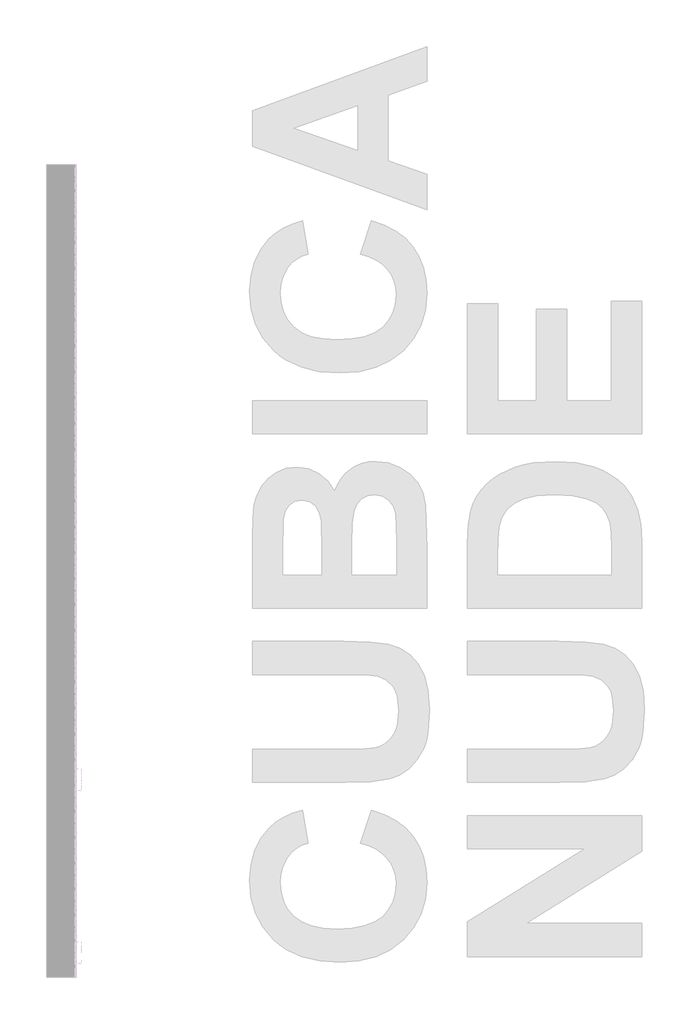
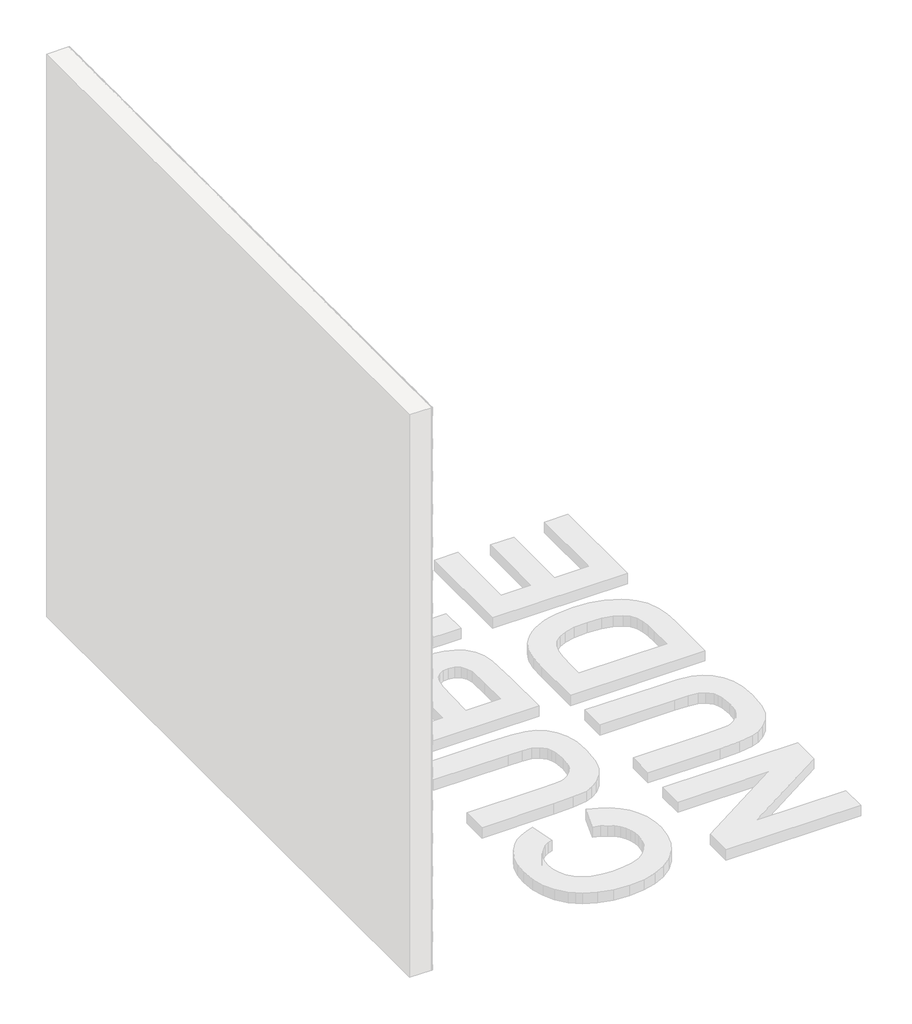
# One storey, part 58 of 121: 144 proxies.
"""IFC4 building model written with IfcOpenShell, lengths in millimetres."""

from ifc_helpers import new_model, si_unit, origin, place, context, project, spatial, transform, mapped, element, save
from components import generic_models_b2b2c5c1, generic_models_9bf73f6f, generic_models_5d175859

model = new_model("IFC4")

# Units and contexts
model_context = context("Model", 3, world=origin())
ifc_project = project(units=[si_unit("LENGTHUNIT", "METRE", prefix="MILLI")], contexts=[model_context])

# Site, building, storey
site = spatial("IfcSite", under=ifc_project)
building = spatial("IfcBuilding", under=site)
storey = spatial("IfcBuildingStorey", under=building, Name="PORTOBELLO - SHOWROOM", Elevation=0.0)

# Proxies
placement = place(None, origin())
generic_models_shape = generic_models_b2b2c5c1(model_context)
element("IfcBuildingElementProxy", 1, Name="PBSHOP - CUBICA NUDE 4,8X8,3 : CUBICA NUDE - POSIÇÃO 01", ObjectType="PBSHOP - CUBICA NUDE 4,8X8,3 : CUBICA NUDE - POSIÇÃO 01", at=placement, inside=storey, context=model_context, shape_type="MappedRepresentation", body=[
    mapped(generic_models_shape, transform((150369.5341846, 7350.3600726, 1381.3110192), x_axis=(0.0, 1.0, 0.0), y_axis=(0.0, 0.0, 1.0), z_axis=(1.0, 0.0, 0.0))),
])
element("IfcBuildingElementProxy", 2, Name="PBSHOP - CUBICA NUDE 4,8X8,3 : CUBICA NUDE - POSIÇÃO 01", ObjectType="PBSHOP - CUBICA NUDE 4,8X8,3 : CUBICA NUDE - POSIÇÃO 01", at=placement, inside=storey, context=model_context, shape_type="MappedRepresentation", body=[
    mapped(generic_models_shape, transform((150369.5341846, 7441.1993419, 1381.3110192), x_axis=(0.0, 1.0, 0.0), y_axis=(0.0, 0.0, 1.0), z_axis=(1.0, 0.0, 0.0))),
])
element("IfcBuildingElementProxy", 3, Name="PBSHOP - CUBICA NUDE 4,8X8,3 : CUBICA NUDE - POSIÇÃO 01", ObjectType="PBSHOP - CUBICA NUDE 4,8X8,3 : CUBICA NUDE - POSIÇÃO 01", at=placement, inside=storey, context=model_context, shape_type="MappedRepresentation", body=[
    mapped(generic_models_shape, transform((150369.5341846, 7532.0386111, 1381.3110192), x_axis=(0.0, 1.0, 0.0), y_axis=(0.0, 0.0, 1.0), z_axis=(1.0, 0.0, 0.0))),
])
element("IfcBuildingElementProxy", 4, Name="PBSHOP - CUBICA NUDE 4,8X8,3 : CUBICA NUDE - POSIÇÃO 01", ObjectType="PBSHOP - CUBICA NUDE 4,8X8,3 : CUBICA NUDE - POSIÇÃO 01", at=placement, inside=storey, context=model_context, shape_type="MappedRepresentation", body=[
    mapped(generic_models_shape, transform((150369.5341846, 7622.8778804, 1381.3110192), x_axis=(0.0, 1.0, 0.0), y_axis=(0.0, 0.0, 1.0), z_axis=(1.0, 0.0, 0.0))),
])
element("IfcBuildingElementProxy", 5, Name="PBSHOP - CUBICA NUDE 4,8X8,3 : CUBICA NUDE - POSIÇÃO 01", ObjectType="PBSHOP - CUBICA NUDE 4,8X8,3 : CUBICA NUDE - POSIÇÃO 01", at=placement, inside=storey, context=model_context, shape_type="MappedRepresentation", body=[
    mapped(generic_models_shape, transform((150369.5341846, 7713.7171496, 1381.3110192), x_axis=(0.0, 1.0, 0.0), y_axis=(0.0, 0.0, 1.0), z_axis=(1.0, 0.0, 0.0))),
])
element("IfcBuildingElementProxy", 6, Name="PBSHOP - CUBICA NUDE 4,8X8,3 : CUBICA NUDE - POSIÇÃO 01", ObjectType="PBSHOP - CUBICA NUDE 4,8X8,3 : CUBICA NUDE - POSIÇÃO 01", at=placement, inside=storey, context=model_context, shape_type="MappedRepresentation", body=[
    mapped(generic_models_shape, transform((150369.5341846, 7804.5564189, 1381.3110192), x_axis=(0.0, 1.0, 0.0), y_axis=(0.0, 0.0, 1.0), z_axis=(1.0, 0.0, 0.0))),
])
element("IfcBuildingElementProxy", 7, Name="PBSHOP - CUBICA NUDE 4,8X8,3 : CUBICA NUDE - POSIÇÃO 01", ObjectType="PBSHOP - CUBICA NUDE 4,8X8,3 : CUBICA NUDE - POSIÇÃO 01", at=placement, inside=storey, context=model_context, shape_type="MappedRepresentation", body=[
    mapped(generic_models_shape, transform((150369.5341846, 7895.3956881, 1381.3110192), x_axis=(0.0, 1.0, 0.0), y_axis=(0.0, 0.0, 1.0), z_axis=(1.0, 0.0, 0.0))),
])
element("IfcBuildingElementProxy", 8, Name="PBSHOP - CUBICA NUDE 4,8X8,3 : CUBICA NUDE - POSIÇÃO 01", ObjectType="PBSHOP - CUBICA NUDE 4,8X8,3 : CUBICA NUDE - POSIÇÃO 01", at=placement, inside=storey, context=model_context, shape_type="MappedRepresentation", body=[
    mapped(generic_models_shape, transform((150369.5341846, 7986.2349573, 1381.3110192), x_axis=(0.0, 1.0, 0.0), y_axis=(0.0, 0.0, 1.0), z_axis=(1.0, 0.0, 0.0))),
])
element("IfcBuildingElementProxy", 9, Name="PBSHOP - CUBICA NUDE 4,8X8,3 : CUBICA NUDE - POSIÇÃO 01", ObjectType="PBSHOP - CUBICA NUDE 4,8X8,3 : CUBICA NUDE - POSIÇÃO 01", at=placement, inside=storey, context=model_context, shape_type="MappedRepresentation", body=[
    mapped(generic_models_shape, transform((150369.5341846, 7032.4226303, 1460.2456575), x_axis=(0.0, 1.0, 0.0), y_axis=(0.0, 0.0, 1.0), z_axis=(1.0, 0.0, 0.0))),
])
element("IfcBuildingElementProxy", 10, Name="PBSHOP - CUBICA NUDE 4,8X8,3 : CUBICA NUDE - POSIÇÃO 01", ObjectType="PBSHOP - CUBICA NUDE 4,8X8,3 : CUBICA NUDE - POSIÇÃO 01", at=placement, inside=storey, context=model_context, shape_type="MappedRepresentation", body=[
    mapped(generic_models_shape, transform((150369.5341846, 7123.2618995, 1460.2456575), x_axis=(0.0, 1.0, 0.0), y_axis=(0.0, 0.0, 1.0), z_axis=(1.0, 0.0, 0.0))),
])
element("IfcBuildingElementProxy", 11, Name="PBSHOP - CUBICA NUDE 4,8X8,3 : CUBICA NUDE - POSIÇÃO 01", ObjectType="PBSHOP - CUBICA NUDE 4,8X8,3 : CUBICA NUDE - POSIÇÃO 01", at=placement, inside=storey, context=model_context, shape_type="MappedRepresentation", body=[
    mapped(generic_models_shape, transform((150369.5341846, 7214.1011688, 1460.2456575), x_axis=(0.0, 1.0, 0.0), y_axis=(0.0, 0.0, 1.0), z_axis=(1.0, 0.0, 0.0))),
])
element("IfcBuildingElementProxy", 12, Name="PBSHOP - CUBICA NUDE 4,8X8,3 : CUBICA NUDE - POSIÇÃO 01", ObjectType="PBSHOP - CUBICA NUDE 4,8X8,3 : CUBICA NUDE - POSIÇÃO 01", at=placement, inside=storey, context=model_context, shape_type="MappedRepresentation", body=[
    mapped(generic_models_shape, transform((150369.5341846, 7304.940438, 1460.2456575), x_axis=(0.0, 1.0, 0.0), y_axis=(0.0, 0.0, 1.0), z_axis=(1.0, 0.0, 0.0))),
])
element("IfcBuildingElementProxy", 13, Name="PBSHOP - CUBICA NUDE 4,8X8,3 : CUBICA NUDE - POSIÇÃO 01", ObjectType="PBSHOP - CUBICA NUDE 4,8X8,3 : CUBICA NUDE - POSIÇÃO 01", at=placement, inside=storey, context=model_context, shape_type="MappedRepresentation", body=[
    mapped(generic_models_shape, transform((150369.5341846, 7395.7797073, 1460.2456575), x_axis=(0.0, 1.0, 0.0), y_axis=(0.0, 0.0, 1.0), z_axis=(1.0, 0.0, 0.0))),
])
element("IfcBuildingElementProxy", 14, Name="PBSHOP - CUBICA NUDE 4,8X8,3 : CUBICA NUDE - POSIÇÃO 01", ObjectType="PBSHOP - CUBICA NUDE 4,8X8,3 : CUBICA NUDE - POSIÇÃO 01", at=placement, inside=storey, context=model_context, shape_type="MappedRepresentation", body=[
    mapped(generic_models_shape, transform((150369.5341846, 7486.6189765, 1460.2456575), x_axis=(0.0, 1.0, 0.0), y_axis=(0.0, 0.0, 1.0), z_axis=(1.0, 0.0, 0.0))),
])
element("IfcBuildingElementProxy", 15, Name="PBSHOP - CUBICA NUDE 4,8X8,3 : CUBICA NUDE - POSIÇÃO 01", ObjectType="PBSHOP - CUBICA NUDE 4,8X8,3 : CUBICA NUDE - POSIÇÃO 01", at=placement, inside=storey, context=model_context, shape_type="MappedRepresentation", body=[
    mapped(generic_models_shape, transform((150369.5341846, 7577.4582457, 1460.2456575), x_axis=(0.0, 1.0, 0.0), y_axis=(0.0, 0.0, 1.0), z_axis=(1.0, 0.0, 0.0))),
])
element("IfcBuildingElementProxy", 16, Name="PBSHOP - CUBICA NUDE 4,8X8,3 : CUBICA NUDE - POSIÇÃO 01", ObjectType="PBSHOP - CUBICA NUDE 4,8X8,3 : CUBICA NUDE - POSIÇÃO 01", at=placement, inside=storey, context=model_context, shape_type="MappedRepresentation", body=[
    mapped(generic_models_shape, transform((150369.5341846, 7668.297515, 1460.2456575), x_axis=(0.0, 1.0, 0.0), y_axis=(0.0, 0.0, 1.0), z_axis=(1.0, 0.0, 0.0))),
])
element("IfcBuildingElementProxy", 17, Name="PBSHOP - CUBICA NUDE 4,8X8,3 : CUBICA NUDE - POSIÇÃO 01", ObjectType="PBSHOP - CUBICA NUDE 4,8X8,3 : CUBICA NUDE - POSIÇÃO 01", at=placement, inside=storey, context=model_context, shape_type="MappedRepresentation", body=[
    mapped(generic_models_shape, transform((150369.5341846, 7759.1367842, 1460.2456575), x_axis=(0.0, 1.0, 0.0), y_axis=(0.0, 0.0, 1.0), z_axis=(1.0, 0.0, 0.0))),
])
element("IfcBuildingElementProxy", 18, Name="PBSHOP - CUBICA NUDE 4,8X8,3 : CUBICA NUDE - POSIÇÃO 01", ObjectType="PBSHOP - CUBICA NUDE 4,8X8,3 : CUBICA NUDE - POSIÇÃO 01", at=placement, inside=storey, context=model_context, shape_type="MappedRepresentation", body=[
    mapped(generic_models_shape, transform((150369.5341846, 7849.9760535, 1460.2456575), x_axis=(0.0, 1.0, 0.0), y_axis=(0.0, 0.0, 1.0), z_axis=(1.0, 0.0, 0.0))),
])
element("IfcBuildingElementProxy", 19, Name="PBSHOP - CUBICA NUDE 4,8X8,3 : CUBICA NUDE - POSIÇÃO 01", ObjectType="PBSHOP - CUBICA NUDE 4,8X8,3 : CUBICA NUDE - POSIÇÃO 01", at=placement, inside=storey, context=model_context, shape_type="MappedRepresentation", body=[
    mapped(generic_models_shape, transform((150369.5341846, 7940.8153227, 1460.2456575), x_axis=(0.0, 1.0, 0.0), y_axis=(0.0, 0.0, 1.0), z_axis=(1.0, 0.0, 0.0))),
])
element("IfcBuildingElementProxy", 20, Name="PBSHOP - CUBICA NUDE 4,8X8,3 : CUBICA NUDE - POSIÇÃO 01", ObjectType="PBSHOP - CUBICA NUDE 4,8X8,3 : CUBICA NUDE - POSIÇÃO 01", at=placement, inside=storey, context=model_context, shape_type="MappedRepresentation", body=[
    mapped(generic_models_shape, transform((150369.5341846, 7077.8422649, 1539.1802959), x_axis=(0.0, 1.0, 0.0), y_axis=(0.0, 0.0, 1.0), z_axis=(1.0, 0.0, 0.0))),
])
element("IfcBuildingElementProxy", 21, Name="PBSHOP - CUBICA NUDE 4,8X8,3 : CUBICA NUDE - POSIÇÃO 01", ObjectType="PBSHOP - CUBICA NUDE 4,8X8,3 : CUBICA NUDE - POSIÇÃO 01", at=placement, inside=storey, context=model_context, shape_type="MappedRepresentation", body=[
    mapped(generic_models_shape, transform((150369.5341846, 7168.6815341, 1539.1802959), x_axis=(0.0, 1.0, 0.0), y_axis=(0.0, 0.0, 1.0), z_axis=(1.0, 0.0, 0.0))),
])
element("IfcBuildingElementProxy", 22, Name="PBSHOP - CUBICA NUDE 4,8X8,3 : CUBICA NUDE - POSIÇÃO 01", ObjectType="PBSHOP - CUBICA NUDE 4,8X8,3 : CUBICA NUDE - POSIÇÃO 01", at=placement, inside=storey, context=model_context, shape_type="MappedRepresentation", body=[
    mapped(generic_models_shape, transform((150369.5341846, 7259.5208034, 1539.1802959), x_axis=(0.0, 1.0, 0.0), y_axis=(0.0, 0.0, 1.0), z_axis=(1.0, 0.0, 0.0))),
])
element("IfcBuildingElementProxy", 23, Name="PBSHOP - CUBICA NUDE 4,8X8,3 : CUBICA NUDE - POSIÇÃO 01", ObjectType="PBSHOP - CUBICA NUDE 4,8X8,3 : CUBICA NUDE - POSIÇÃO 01", at=placement, inside=storey, context=model_context, shape_type="MappedRepresentation", body=[
    mapped(generic_models_shape, transform((150369.5341846, 7350.3600726, 1539.1802959), x_axis=(0.0, 1.0, 0.0), y_axis=(0.0, 0.0, 1.0), z_axis=(1.0, 0.0, 0.0))),
])
element("IfcBuildingElementProxy", 24, Name="PBSHOP - CUBICA NUDE 4,8X8,3 : CUBICA NUDE - POSIÇÃO 01", ObjectType="PBSHOP - CUBICA NUDE 4,8X8,3 : CUBICA NUDE - POSIÇÃO 01", at=placement, inside=storey, context=model_context, shape_type="MappedRepresentation", body=[
    mapped(generic_models_shape, transform((150369.5341846, 7441.1993419, 1539.1802959), x_axis=(0.0, 1.0, 0.0), y_axis=(0.0, 0.0, 1.0), z_axis=(1.0, 0.0, 0.0))),
])
element("IfcBuildingElementProxy", 25, Name="PBSHOP - CUBICA NUDE 4,8X8,3 : CUBICA NUDE - POSIÇÃO 01", ObjectType="PBSHOP - CUBICA NUDE 4,8X8,3 : CUBICA NUDE - POSIÇÃO 01", at=placement, inside=storey, context=model_context, shape_type="MappedRepresentation", body=[
    mapped(generic_models_shape, transform((150369.5341846, 7532.0386111, 1539.1802959), x_axis=(0.0, 1.0, 0.0), y_axis=(0.0, 0.0, 1.0), z_axis=(1.0, 0.0, 0.0))),
])
element("IfcBuildingElementProxy", 26, Name="PBSHOP - CUBICA NUDE 4,8X8,3 : CUBICA NUDE - POSIÇÃO 01", ObjectType="PBSHOP - CUBICA NUDE 4,8X8,3 : CUBICA NUDE - POSIÇÃO 01", at=placement, inside=storey, context=model_context, shape_type="MappedRepresentation", body=[
    mapped(generic_models_shape, transform((150369.5341846, 7622.8778804, 1539.1802959), x_axis=(0.0, 1.0, 0.0), y_axis=(0.0, 0.0, 1.0), z_axis=(1.0, 0.0, 0.0))),
])
element("IfcBuildingElementProxy", 27, Name="PBSHOP - CUBICA NUDE 4,8X8,3 : CUBICA NUDE - POSIÇÃO 01", ObjectType="PBSHOP - CUBICA NUDE 4,8X8,3 : CUBICA NUDE - POSIÇÃO 01", at=placement, inside=storey, context=model_context, shape_type="MappedRepresentation", body=[
    mapped(generic_models_shape, transform((150369.5341846, 7713.7171496, 1539.1802959), x_axis=(0.0, 1.0, 0.0), y_axis=(0.0, 0.0, 1.0), z_axis=(1.0, 0.0, 0.0))),
])
element("IfcBuildingElementProxy", 28, Name="PBSHOP - CUBICA NUDE 4,8X8,3 : CUBICA NUDE - POSIÇÃO 01", ObjectType="PBSHOP - CUBICA NUDE 4,8X8,3 : CUBICA NUDE - POSIÇÃO 01", at=placement, inside=storey, context=model_context, shape_type="MappedRepresentation", body=[
    mapped(generic_models_shape, transform((150369.5341846, 7804.5564189, 1539.1802959), x_axis=(0.0, 1.0, 0.0), y_axis=(0.0, 0.0, 1.0), z_axis=(1.0, 0.0, 0.0))),
])
element("IfcBuildingElementProxy", 29, Name="PBSHOP - CUBICA NUDE 4,8X8,3 : CUBICA NUDE - POSIÇÃO 01", ObjectType="PBSHOP - CUBICA NUDE 4,8X8,3 : CUBICA NUDE - POSIÇÃO 01", at=placement, inside=storey, context=model_context, shape_type="MappedRepresentation", body=[
    mapped(generic_models_shape, transform((150369.5341846, 7895.3956881, 1539.1802959), x_axis=(0.0, 1.0, 0.0), y_axis=(0.0, 0.0, 1.0), z_axis=(1.0, 0.0, 0.0))),
])
element("IfcBuildingElementProxy", 30, Name="PBSHOP - CUBICA NUDE 4,8X8,3 : CUBICA NUDE - POSIÇÃO 01", ObjectType="PBSHOP - CUBICA NUDE 4,8X8,3 : CUBICA NUDE - POSIÇÃO 01", at=placement, inside=storey, context=model_context, shape_type="MappedRepresentation", body=[
    mapped(generic_models_shape, transform((150369.5341846, 7986.2349573, 1539.1802959), x_axis=(0.0, 1.0, 0.0), y_axis=(0.0, 0.0, 1.0), z_axis=(1.0, 0.0, 0.0))),
])
element("IfcBuildingElementProxy", 31, Name="PBSHOP - CUBICA NUDE 4,8X8,3 : CUBICA NUDE - POSIÇÃO 01", ObjectType="PBSHOP - CUBICA NUDE 4,8X8,3 : CUBICA NUDE - POSIÇÃO 01", at=placement, inside=storey, context=model_context, shape_type="MappedRepresentation", body=[
    mapped(generic_models_shape, transform((150369.5341846, 7032.4226303, 1618.1149343), x_axis=(0.0, 1.0, 0.0), y_axis=(0.0, 0.0, 1.0), z_axis=(1.0, 0.0, 0.0))),
])
element("IfcBuildingElementProxy", 32, Name="PBSHOP - CUBICA NUDE 4,8X8,3 : CUBICA NUDE - POSIÇÃO 01", ObjectType="PBSHOP - CUBICA NUDE 4,8X8,3 : CUBICA NUDE - POSIÇÃO 01", at=placement, inside=storey, context=model_context, shape_type="MappedRepresentation", body=[
    mapped(generic_models_shape, transform((150369.5341846, 7123.2618995, 1618.1149343), x_axis=(0.0, 1.0, 0.0), y_axis=(0.0, 0.0, 1.0), z_axis=(1.0, 0.0, 0.0))),
])
element("IfcBuildingElementProxy", 33, Name="PBSHOP - CUBICA NUDE 4,8X8,3 : CUBICA NUDE - POSIÇÃO 01", ObjectType="PBSHOP - CUBICA NUDE 4,8X8,3 : CUBICA NUDE - POSIÇÃO 01", at=placement, inside=storey, context=model_context, shape_type="MappedRepresentation", body=[
    mapped(generic_models_shape, transform((150369.5341846, 7214.1011688, 1618.1149343), x_axis=(0.0, 1.0, 0.0), y_axis=(0.0, 0.0, 1.0), z_axis=(1.0, 0.0, 0.0))),
])
element("IfcBuildingElementProxy", 34, Name="PBSHOP - CUBICA NUDE 4,8X8,3 : CUBICA NUDE - POSIÇÃO 01", ObjectType="PBSHOP - CUBICA NUDE 4,8X8,3 : CUBICA NUDE - POSIÇÃO 01", at=placement, inside=storey, context=model_context, shape_type="MappedRepresentation", body=[
    mapped(generic_models_shape, transform((150369.5341846, 7304.940438, 1618.1149343), x_axis=(0.0, 1.0, 0.0), y_axis=(0.0, 0.0, 1.0), z_axis=(1.0, 0.0, 0.0))),
])
element("IfcBuildingElementProxy", 35, Name="PBSHOP - CUBICA NUDE 4,8X8,3 : CUBICA NUDE - POSIÇÃO 01", ObjectType="PBSHOP - CUBICA NUDE 4,8X8,3 : CUBICA NUDE - POSIÇÃO 01", at=placement, inside=storey, context=model_context, shape_type="MappedRepresentation", body=[
    mapped(generic_models_shape, transform((150369.5341846, 7395.7797073, 1618.1149343), x_axis=(0.0, 1.0, 0.0), y_axis=(0.0, 0.0, 1.0), z_axis=(1.0, 0.0, 0.0))),
])
element("IfcBuildingElementProxy", 36, Name="PBSHOP - CUBICA NUDE 4,8X8,3 : CUBICA NUDE - POSIÇÃO 01", ObjectType="PBSHOP - CUBICA NUDE 4,8X8,3 : CUBICA NUDE - POSIÇÃO 01", at=placement, inside=storey, context=model_context, shape_type="MappedRepresentation", body=[
    mapped(generic_models_shape, transform((150369.5341846, 7486.6189765, 1618.1149343), x_axis=(0.0, 1.0, 0.0), y_axis=(0.0, 0.0, 1.0), z_axis=(1.0, 0.0, 0.0))),
])
element("IfcBuildingElementProxy", 37, Name="PBSHOP - CUBICA NUDE 4,8X8,3 : CUBICA NUDE - POSIÇÃO 01", ObjectType="PBSHOP - CUBICA NUDE 4,8X8,3 : CUBICA NUDE - POSIÇÃO 01", at=placement, inside=storey, context=model_context, shape_type="MappedRepresentation", body=[
    mapped(generic_models_shape, transform((150369.5341846, 7577.4582457, 1618.1149343), x_axis=(0.0, 1.0, 0.0), y_axis=(0.0, 0.0, 1.0), z_axis=(1.0, 0.0, 0.0))),
])
element("IfcBuildingElementProxy", 38, Name="PBSHOP - CUBICA NUDE 4,8X8,3 : CUBICA NUDE - POSIÇÃO 01", ObjectType="PBSHOP - CUBICA NUDE 4,8X8,3 : CUBICA NUDE - POSIÇÃO 01", at=placement, inside=storey, context=model_context, shape_type="MappedRepresentation", body=[
    mapped(generic_models_shape, transform((150369.5341846, 7668.297515, 1618.1149343), x_axis=(0.0, 1.0, 0.0), y_axis=(0.0, 0.0, 1.0), z_axis=(1.0, 0.0, 0.0))),
])
element("IfcBuildingElementProxy", 39, Name="PBSHOP - CUBICA NUDE 4,8X8,3 : CUBICA NUDE - POSIÇÃO 01", ObjectType="PBSHOP - CUBICA NUDE 4,8X8,3 : CUBICA NUDE - POSIÇÃO 01", at=placement, inside=storey, context=model_context, shape_type="MappedRepresentation", body=[
    mapped(generic_models_shape, transform((150369.5341846, 7759.1367842, 1618.1149343), x_axis=(0.0, 1.0, 0.0), y_axis=(0.0, 0.0, 1.0), z_axis=(1.0, 0.0, 0.0))),
])
element("IfcBuildingElementProxy", 40, Name="PBSHOP - CUBICA NUDE 4,8X8,3 : CUBICA NUDE - POSIÇÃO 01", ObjectType="PBSHOP - CUBICA NUDE 4,8X8,3 : CUBICA NUDE - POSIÇÃO 01", at=placement, inside=storey, context=model_context, shape_type="MappedRepresentation", body=[
    mapped(generic_models_shape, transform((150369.5341846, 7849.9760535, 1618.1149343), x_axis=(0.0, 1.0, 0.0), y_axis=(0.0, 0.0, 1.0), z_axis=(1.0, 0.0, 0.0))),
])
element("IfcBuildingElementProxy", 41, Name="PBSHOP - CUBICA NUDE 4,8X8,3 : CUBICA NUDE - POSIÇÃO 01", ObjectType="PBSHOP - CUBICA NUDE 4,8X8,3 : CUBICA NUDE - POSIÇÃO 01", at=placement, inside=storey, context=model_context, shape_type="MappedRepresentation", body=[
    mapped(generic_models_shape, transform((150369.5341846, 7940.8153227, 1618.1149343), x_axis=(0.0, 1.0, 0.0), y_axis=(0.0, 0.0, 1.0), z_axis=(1.0, 0.0, 0.0))),
])
element("IfcBuildingElementProxy", 42, Name="PBSHOP - CUBICA NUDE 4,8X8,3 : CUBICA NUDE - POSIÇÃO 01", ObjectType="PBSHOP - CUBICA NUDE 4,8X8,3 : CUBICA NUDE - POSIÇÃO 01", at=placement, inside=storey, context=model_context, shape_type="MappedRepresentation", body=[
    mapped(generic_models_shape, transform((150369.5341846, 7077.8422649, 1697.0495727), x_axis=(0.0, 1.0, 0.0), y_axis=(0.0, 0.0, 1.0), z_axis=(1.0, 0.0, 0.0))),
])
element("IfcBuildingElementProxy", 43, Name="PBSHOP - CUBICA NUDE 4,8X8,3 : CUBICA NUDE - POSIÇÃO 01", ObjectType="PBSHOP - CUBICA NUDE 4,8X8,3 : CUBICA NUDE - POSIÇÃO 01", at=placement, inside=storey, context=model_context, shape_type="MappedRepresentation", body=[
    mapped(generic_models_shape, transform((150369.5341846, 7168.6815341, 1697.0495727), x_axis=(0.0, 1.0, 0.0), y_axis=(0.0, 0.0, 1.0), z_axis=(1.0, 0.0, 0.0))),
])
element("IfcBuildingElementProxy", 44, Name="PBSHOP - CUBICA NUDE 4,8X8,3 : CUBICA NUDE - POSIÇÃO 01", ObjectType="PBSHOP - CUBICA NUDE 4,8X8,3 : CUBICA NUDE - POSIÇÃO 01", at=placement, inside=storey, context=model_context, shape_type="MappedRepresentation", body=[
    mapped(generic_models_shape, transform((150369.5341846, 7259.5208034, 1697.0495727), x_axis=(0.0, 1.0, 0.0), y_axis=(0.0, 0.0, 1.0), z_axis=(1.0, 0.0, 0.0))),
])
element("IfcBuildingElementProxy", 45, Name="PBSHOP - CUBICA NUDE 4,8X8,3 : CUBICA NUDE - POSIÇÃO 01", ObjectType="PBSHOP - CUBICA NUDE 4,8X8,3 : CUBICA NUDE - POSIÇÃO 01", at=placement, inside=storey, context=model_context, shape_type="MappedRepresentation", body=[
    mapped(generic_models_shape, transform((150369.5341846, 7350.3600726, 1697.0495727), x_axis=(0.0, 1.0, 0.0), y_axis=(0.0, 0.0, 1.0), z_axis=(1.0, 0.0, 0.0))),
])
element("IfcBuildingElementProxy", 46, Name="PBSHOP - CUBICA NUDE 4,8X8,3 : CUBICA NUDE - POSIÇÃO 01", ObjectType="PBSHOP - CUBICA NUDE 4,8X8,3 : CUBICA NUDE - POSIÇÃO 01", at=placement, inside=storey, context=model_context, shape_type="MappedRepresentation", body=[
    mapped(generic_models_shape, transform((150369.5341846, 7441.1993419, 1697.0495727), x_axis=(0.0, 1.0, 0.0), y_axis=(0.0, 0.0, 1.0), z_axis=(1.0, 0.0, 0.0))),
])
element("IfcBuildingElementProxy", 47, Name="PBSHOP - CUBICA NUDE 4,8X8,3 : CUBICA NUDE - POSIÇÃO 01", ObjectType="PBSHOP - CUBICA NUDE 4,8X8,3 : CUBICA NUDE - POSIÇÃO 01", at=placement, inside=storey, context=model_context, shape_type="MappedRepresentation", body=[
    mapped(generic_models_shape, transform((150369.5341846, 7532.0386111, 1697.0495727), x_axis=(0.0, 1.0, 0.0), y_axis=(0.0, 0.0, 1.0), z_axis=(1.0, 0.0, 0.0))),
])
element("IfcBuildingElementProxy", 48, Name="PBSHOP - CUBICA NUDE 4,8X8,3 : CUBICA NUDE - POSIÇÃO 01", ObjectType="PBSHOP - CUBICA NUDE 4,8X8,3 : CUBICA NUDE - POSIÇÃO 01", at=placement, inside=storey, context=model_context, shape_type="MappedRepresentation", body=[
    mapped(generic_models_shape, transform((150369.5341846, 7622.8778804, 1697.0495727), x_axis=(0.0, 1.0, 0.0), y_axis=(0.0, 0.0, 1.0), z_axis=(1.0, 0.0, 0.0))),
])
element("IfcBuildingElementProxy", 49, Name="PBSHOP - CUBICA NUDE 4,8X8,3 : CUBICA NUDE - POSIÇÃO 01", ObjectType="PBSHOP - CUBICA NUDE 4,8X8,3 : CUBICA NUDE - POSIÇÃO 01", at=placement, inside=storey, context=model_context, shape_type="MappedRepresentation", body=[
    mapped(generic_models_shape, transform((150369.5341846, 7713.7171496, 1697.0495727), x_axis=(0.0, 1.0, 0.0), y_axis=(0.0, 0.0, 1.0), z_axis=(1.0, 0.0, 0.0))),
])
element("IfcBuildingElementProxy", 50, Name="PBSHOP - CUBICA NUDE 4,8X8,3 : CUBICA NUDE - POSIÇÃO 01", ObjectType="PBSHOP - CUBICA NUDE 4,8X8,3 : CUBICA NUDE - POSIÇÃO 01", at=placement, inside=storey, context=model_context, shape_type="MappedRepresentation", body=[
    mapped(generic_models_shape, transform((150369.5341846, 7804.5564189, 1697.0495727), x_axis=(0.0, 1.0, 0.0), y_axis=(0.0, 0.0, 1.0), z_axis=(1.0, 0.0, 0.0))),
])
generic_models_2_shape = generic_models_9bf73f6f(model_context)
element("IfcBuildingElementProxy", 51, Name="PBSHOP - CUBICA NUDE 4,8X8,3 : CUBICA NUDE - POSIÇÃO 03", ObjectType="PBSHOP - CUBICA NUDE 4,8X8,3 : CUBICA NUDE - POSIÇÃO 03", at=placement, inside=storey, context=model_context, shape_type="MappedRepresentation", body=[
    mapped(generic_models_2_shape, transform((150369.5341846, 7055.1346068, 1341.8024896), x_axis=(0.0, 1.0, 0.0), y_axis=(0.0, 0.0, 1.0), z_axis=(1.0, 0.0, 0.0))),
])
element("IfcBuildingElementProxy", 52, Name="PBSHOP - CUBICA NUDE 4,8X8,3 : CUBICA NUDE - POSIÇÃO 03", ObjectType="PBSHOP - CUBICA NUDE 4,8X8,3 : CUBICA NUDE - POSIÇÃO 03", at=placement, inside=storey, context=model_context, shape_type="MappedRepresentation", body=[
    mapped(generic_models_2_shape, transform((150369.5341846, 7145.973876, 1341.8024896), x_axis=(0.0, 1.0, 0.0), y_axis=(0.0, 0.0, 1.0), z_axis=(1.0, 0.0, 0.0))),
])
element("IfcBuildingElementProxy", 53, Name="PBSHOP - CUBICA NUDE 4,8X8,3 : CUBICA NUDE - POSIÇÃO 03", ObjectType="PBSHOP - CUBICA NUDE 4,8X8,3 : CUBICA NUDE - POSIÇÃO 03", at=placement, inside=storey, context=model_context, shape_type="MappedRepresentation", body=[
    mapped(generic_models_2_shape, transform((150369.5341846, 7236.8131452, 1341.8024896), x_axis=(0.0, 1.0, 0.0), y_axis=(0.0, 0.0, 1.0), z_axis=(1.0, 0.0, 0.0))),
])
element("IfcBuildingElementProxy", 54, Name="PBSHOP - CUBICA NUDE 4,8X8,3 : CUBICA NUDE - POSIÇÃO 03", ObjectType="PBSHOP - CUBICA NUDE 4,8X8,3 : CUBICA NUDE - POSIÇÃO 03", at=placement, inside=storey, context=model_context, shape_type="MappedRepresentation", body=[
    mapped(generic_models_2_shape, transform((150369.5341846, 7327.6524145, 1341.8024896), x_axis=(0.0, 1.0, 0.0), y_axis=(0.0, 0.0, 1.0), z_axis=(1.0, 0.0, 0.0))),
])
element("IfcBuildingElementProxy", 55, Name="PBSHOP - CUBICA NUDE 4,8X8,3 : CUBICA NUDE - POSIÇÃO 03", ObjectType="PBSHOP - CUBICA NUDE 4,8X8,3 : CUBICA NUDE - POSIÇÃO 03", at=placement, inside=storey, context=model_context, shape_type="MappedRepresentation", body=[
    mapped(generic_models_2_shape, transform((150369.5341846, 7418.4916837, 1341.8024896), x_axis=(0.0, 1.0, 0.0), y_axis=(0.0, 0.0, 1.0), z_axis=(1.0, 0.0, 0.0))),
])
element("IfcBuildingElementProxy", 56, Name="PBSHOP - CUBICA NUDE 4,8X8,3 : CUBICA NUDE - POSIÇÃO 03", ObjectType="PBSHOP - CUBICA NUDE 4,8X8,3 : CUBICA NUDE - POSIÇÃO 03", at=placement, inside=storey, context=model_context, shape_type="MappedRepresentation", body=[
    mapped(generic_models_2_shape, transform((150369.5341846, 7509.330953, 1341.8024896), x_axis=(0.0, 1.0, 0.0), y_axis=(0.0, 0.0, 1.0), z_axis=(1.0, 0.0, 0.0))),
])
element("IfcBuildingElementProxy", 57, Name="PBSHOP - CUBICA NUDE 4,8X8,3 : CUBICA NUDE - POSIÇÃO 03", ObjectType="PBSHOP - CUBICA NUDE 4,8X8,3 : CUBICA NUDE - POSIÇÃO 03", at=placement, inside=storey, context=model_context, shape_type="MappedRepresentation", body=[
    mapped(generic_models_2_shape, transform((150369.5341846, 7600.1702222, 1341.8024896), x_axis=(0.0, 1.0, 0.0), y_axis=(0.0, 0.0, 1.0), z_axis=(1.0, 0.0, 0.0))),
])
element("IfcBuildingElementProxy", 58, Name="PBSHOP - CUBICA NUDE 4,8X8,3 : CUBICA NUDE - POSIÇÃO 03", ObjectType="PBSHOP - CUBICA NUDE 4,8X8,3 : CUBICA NUDE - POSIÇÃO 03", at=placement, inside=storey, context=model_context, shape_type="MappedRepresentation", body=[
    mapped(generic_models_2_shape, transform((150369.5341846, 7691.0094915, 1341.8024896), x_axis=(0.0, 1.0, 0.0), y_axis=(0.0, 0.0, 1.0), z_axis=(1.0, 0.0, 0.0))),
])
element("IfcBuildingElementProxy", 59, Name="PBSHOP - CUBICA NUDE 4,8X8,3 : CUBICA NUDE - POSIÇÃO 03", ObjectType="PBSHOP - CUBICA NUDE 4,8X8,3 : CUBICA NUDE - POSIÇÃO 03", at=placement, inside=storey, context=model_context, shape_type="MappedRepresentation", body=[
    mapped(generic_models_2_shape, transform((150369.5341846, 7781.8487607, 1341.8024896), x_axis=(0.0, 1.0, 0.0), y_axis=(0.0, 0.0, 1.0), z_axis=(1.0, 0.0, 0.0))),
])
element("IfcBuildingElementProxy", 60, Name="PBSHOP - CUBICA NUDE 4,8X8,3 : CUBICA NUDE - POSIÇÃO 03", ObjectType="PBSHOP - CUBICA NUDE 4,8X8,3 : CUBICA NUDE - POSIÇÃO 03", at=placement, inside=storey, context=model_context, shape_type="MappedRepresentation", body=[
    mapped(generic_models_2_shape, transform((150369.5341846, 7872.6880299, 1341.8024896), x_axis=(0.0, 1.0, 0.0), y_axis=(0.0, 0.0, 1.0), z_axis=(1.0, 0.0, 0.0))),
])
element("IfcBuildingElementProxy", 61, Name="PBSHOP - CUBICA NUDE 4,8X8,3 : CUBICA NUDE - POSIÇÃO 03", ObjectType="PBSHOP - CUBICA NUDE 4,8X8,3 : CUBICA NUDE - POSIÇÃO 03", at=placement, inside=storey, context=model_context, shape_type="MappedRepresentation", body=[
    mapped(generic_models_2_shape, transform((150369.5341846, 7963.5272992, 1341.8024896), x_axis=(0.0, 1.0, 0.0), y_axis=(0.0, 0.0, 1.0), z_axis=(1.0, 0.0, 0.0))),
])
element("IfcBuildingElementProxy", 62, Name="PBSHOP - CUBICA NUDE 4,8X8,3 : CUBICA NUDE - POSIÇÃO 03", ObjectType="PBSHOP - CUBICA NUDE 4,8X8,3 : CUBICA NUDE - POSIÇÃO 03", at=placement, inside=storey, context=model_context, shape_type="MappedRepresentation", body=[
    mapped(generic_models_2_shape, transform((150369.5341846, 7009.7149721, 1420.7371279), x_axis=(0.0, 1.0, 0.0), y_axis=(0.0, 0.0, 1.0), z_axis=(1.0, 0.0, 0.0))),
])
element("IfcBuildingElementProxy", 63, Name="PBSHOP - CUBICA NUDE 4,8X8,3 : CUBICA NUDE - POSIÇÃO 03", ObjectType="PBSHOP - CUBICA NUDE 4,8X8,3 : CUBICA NUDE - POSIÇÃO 03", at=placement, inside=storey, context=model_context, shape_type="MappedRepresentation", body=[
    mapped(generic_models_2_shape, transform((150369.5341846, 7100.5542414, 1420.7371279), x_axis=(0.0, 1.0, 0.0), y_axis=(0.0, 0.0, 1.0), z_axis=(1.0, 0.0, 0.0))),
])
element("IfcBuildingElementProxy", 64, Name="PBSHOP - CUBICA NUDE 4,8X8,3 : CUBICA NUDE - POSIÇÃO 03", ObjectType="PBSHOP - CUBICA NUDE 4,8X8,3 : CUBICA NUDE - POSIÇÃO 03", at=placement, inside=storey, context=model_context, shape_type="MappedRepresentation", body=[
    mapped(generic_models_2_shape, transform((150369.5341846, 7191.3935106, 1420.7371279), x_axis=(0.0, 1.0, 0.0), y_axis=(0.0, 0.0, 1.0), z_axis=(1.0, 0.0, 0.0))),
])
element("IfcBuildingElementProxy", 65, Name="PBSHOP - CUBICA NUDE 4,8X8,3 : CUBICA NUDE - POSIÇÃO 03", ObjectType="PBSHOP - CUBICA NUDE 4,8X8,3 : CUBICA NUDE - POSIÇÃO 03", at=placement, inside=storey, context=model_context, shape_type="MappedRepresentation", body=[
    mapped(generic_models_2_shape, transform((150369.5341846, 7282.2327799, 1420.7371279), x_axis=(0.0, 1.0, 0.0), y_axis=(0.0, 0.0, 1.0), z_axis=(1.0, 0.0, 0.0))),
])
element("IfcBuildingElementProxy", 66, Name="PBSHOP - CUBICA NUDE 4,8X8,3 : CUBICA NUDE - POSIÇÃO 03", ObjectType="PBSHOP - CUBICA NUDE 4,8X8,3 : CUBICA NUDE - POSIÇÃO 03", at=placement, inside=storey, context=model_context, shape_type="MappedRepresentation", body=[
    mapped(generic_models_2_shape, transform((150369.5341846, 7373.0720491, 1420.7371279), x_axis=(0.0, 1.0, 0.0), y_axis=(0.0, 0.0, 1.0), z_axis=(1.0, 0.0, 0.0))),
])
element("IfcBuildingElementProxy", 67, Name="PBSHOP - CUBICA NUDE 4,8X8,3 : CUBICA NUDE - POSIÇÃO 03", ObjectType="PBSHOP - CUBICA NUDE 4,8X8,3 : CUBICA NUDE - POSIÇÃO 03", at=placement, inside=storey, context=model_context, shape_type="MappedRepresentation", body=[
    mapped(generic_models_2_shape, transform((150369.5341846, 7463.9113184, 1420.7371279), x_axis=(0.0, 1.0, 0.0), y_axis=(0.0, 0.0, 1.0), z_axis=(1.0, 0.0, 0.0))),
])
element("IfcBuildingElementProxy", 68, Name="PBSHOP - CUBICA NUDE 4,8X8,3 : CUBICA NUDE - POSIÇÃO 03", ObjectType="PBSHOP - CUBICA NUDE 4,8X8,3 : CUBICA NUDE - POSIÇÃO 03", at=placement, inside=storey, context=model_context, shape_type="MappedRepresentation", body=[
    mapped(generic_models_2_shape, transform((150369.5341846, 7554.7505876, 1420.7371279), x_axis=(0.0, 1.0, 0.0), y_axis=(0.0, 0.0, 1.0), z_axis=(1.0, 0.0, 0.0))),
])
element("IfcBuildingElementProxy", 69, Name="PBSHOP - CUBICA NUDE 4,8X8,3 : CUBICA NUDE - POSIÇÃO 03", ObjectType="PBSHOP - CUBICA NUDE 4,8X8,3 : CUBICA NUDE - POSIÇÃO 03", at=placement, inside=storey, context=model_context, shape_type="MappedRepresentation", body=[
    mapped(generic_models_2_shape, transform((150369.5341846, 7645.5898568, 1420.7371279), x_axis=(0.0, 1.0, 0.0), y_axis=(0.0, 0.0, 1.0), z_axis=(1.0, 0.0, 0.0))),
])
element("IfcBuildingElementProxy", 70, Name="PBSHOP - CUBICA NUDE 4,8X8,3 : CUBICA NUDE - POSIÇÃO 03", ObjectType="PBSHOP - CUBICA NUDE 4,8X8,3 : CUBICA NUDE - POSIÇÃO 03", at=placement, inside=storey, context=model_context, shape_type="MappedRepresentation", body=[
    mapped(generic_models_2_shape, transform((150369.5341846, 7736.4291261, 1420.7371279), x_axis=(0.0, 1.0, 0.0), y_axis=(0.0, 0.0, 1.0), z_axis=(1.0, 0.0, 0.0))),
])
element("IfcBuildingElementProxy", 71, Name="PBSHOP - CUBICA NUDE 4,8X8,3 : CUBICA NUDE - POSIÇÃO 03", ObjectType="PBSHOP - CUBICA NUDE 4,8X8,3 : CUBICA NUDE - POSIÇÃO 03", at=placement, inside=storey, context=model_context, shape_type="MappedRepresentation", body=[
    mapped(generic_models_2_shape, transform((150369.5341846, 7827.2683953, 1420.7371279), x_axis=(0.0, 1.0, 0.0), y_axis=(0.0, 0.0, 1.0), z_axis=(1.0, 0.0, 0.0))),
])
element("IfcBuildingElementProxy", 72, Name="PBSHOP - CUBICA NUDE 4,8X8,3 : CUBICA NUDE - POSIÇÃO 03", ObjectType="PBSHOP - CUBICA NUDE 4,8X8,3 : CUBICA NUDE - POSIÇÃO 03", at=placement, inside=storey, context=model_context, shape_type="MappedRepresentation", body=[
    mapped(generic_models_2_shape, transform((150369.5341846, 7918.1076646, 1420.7371279), x_axis=(0.0, 1.0, 0.0), y_axis=(0.0, 0.0, 1.0), z_axis=(1.0, 0.0, 0.0))),
])
element("IfcBuildingElementProxy", 73, Name="PBSHOP - CUBICA NUDE 4,8X8,3 : CUBICA NUDE - POSIÇÃO 03", ObjectType="PBSHOP - CUBICA NUDE 4,8X8,3 : CUBICA NUDE - POSIÇÃO 03", at=placement, inside=storey, context=model_context, shape_type="MappedRepresentation", body=[
    mapped(generic_models_2_shape, transform((150369.5341846, 7055.1346068, 1499.6717663), x_axis=(0.0, 1.0, 0.0), y_axis=(0.0, 0.0, 1.0), z_axis=(1.0, 0.0, 0.0))),
])
element("IfcBuildingElementProxy", 74, Name="PBSHOP - CUBICA NUDE 4,8X8,3 : CUBICA NUDE - POSIÇÃO 03", ObjectType="PBSHOP - CUBICA NUDE 4,8X8,3 : CUBICA NUDE - POSIÇÃO 03", at=placement, inside=storey, context=model_context, shape_type="MappedRepresentation", body=[
    mapped(generic_models_2_shape, transform((150369.5341846, 7145.973876, 1499.6717663), x_axis=(0.0, 1.0, 0.0), y_axis=(0.0, 0.0, 1.0), z_axis=(1.0, 0.0, 0.0))),
])
element("IfcBuildingElementProxy", 75, Name="PBSHOP - CUBICA NUDE 4,8X8,3 : CUBICA NUDE - POSIÇÃO 03", ObjectType="PBSHOP - CUBICA NUDE 4,8X8,3 : CUBICA NUDE - POSIÇÃO 03", at=placement, inside=storey, context=model_context, shape_type="MappedRepresentation", body=[
    mapped(generic_models_2_shape, transform((150369.5341846, 7236.8131452, 1499.6717663), x_axis=(0.0, 1.0, 0.0), y_axis=(0.0, 0.0, 1.0), z_axis=(1.0, 0.0, 0.0))),
])
element("IfcBuildingElementProxy", 76, Name="PBSHOP - CUBICA NUDE 4,8X8,3 : CUBICA NUDE - POSIÇÃO 03", ObjectType="PBSHOP - CUBICA NUDE 4,8X8,3 : CUBICA NUDE - POSIÇÃO 03", at=placement, inside=storey, context=model_context, shape_type="MappedRepresentation", body=[
    mapped(generic_models_2_shape, transform((150369.5341846, 7327.6524145, 1499.6717663), x_axis=(0.0, 1.0, 0.0), y_axis=(0.0, 0.0, 1.0), z_axis=(1.0, 0.0, 0.0))),
])
element("IfcBuildingElementProxy", 77, Name="PBSHOP - CUBICA NUDE 4,8X8,3 : CUBICA NUDE - POSIÇÃO 03", ObjectType="PBSHOP - CUBICA NUDE 4,8X8,3 : CUBICA NUDE - POSIÇÃO 03", at=placement, inside=storey, context=model_context, shape_type="MappedRepresentation", body=[
    mapped(generic_models_2_shape, transform((150369.5341846, 7418.4916837, 1499.6717663), x_axis=(0.0, 1.0, 0.0), y_axis=(0.0, 0.0, 1.0), z_axis=(1.0, 0.0, 0.0))),
])
element("IfcBuildingElementProxy", 78, Name="PBSHOP - CUBICA NUDE 4,8X8,3 : CUBICA NUDE - POSIÇÃO 03", ObjectType="PBSHOP - CUBICA NUDE 4,8X8,3 : CUBICA NUDE - POSIÇÃO 03", at=placement, inside=storey, context=model_context, shape_type="MappedRepresentation", body=[
    mapped(generic_models_2_shape, transform((150369.5341846, 7509.330953, 1499.6717663), x_axis=(0.0, 1.0, 0.0), y_axis=(0.0, 0.0, 1.0), z_axis=(1.0, 0.0, 0.0))),
])
element("IfcBuildingElementProxy", 79, Name="PBSHOP - CUBICA NUDE 4,8X8,3 : CUBICA NUDE - POSIÇÃO 03", ObjectType="PBSHOP - CUBICA NUDE 4,8X8,3 : CUBICA NUDE - POSIÇÃO 03", at=placement, inside=storey, context=model_context, shape_type="MappedRepresentation", body=[
    mapped(generic_models_2_shape, transform((150369.5341846, 7600.1702222, 1499.6717663), x_axis=(0.0, 1.0, 0.0), y_axis=(0.0, 0.0, 1.0), z_axis=(1.0, 0.0, 0.0))),
])
element("IfcBuildingElementProxy", 80, Name="PBSHOP - CUBICA NUDE 4,8X8,3 : CUBICA NUDE - POSIÇÃO 03", ObjectType="PBSHOP - CUBICA NUDE 4,8X8,3 : CUBICA NUDE - POSIÇÃO 03", at=placement, inside=storey, context=model_context, shape_type="MappedRepresentation", body=[
    mapped(generic_models_2_shape, transform((150369.5341846, 7691.0094915, 1499.6717663), x_axis=(0.0, 1.0, 0.0), y_axis=(0.0, 0.0, 1.0), z_axis=(1.0, 0.0, 0.0))),
])
element("IfcBuildingElementProxy", 81, Name="PBSHOP - CUBICA NUDE 4,8X8,3 : CUBICA NUDE - POSIÇÃO 03", ObjectType="PBSHOP - CUBICA NUDE 4,8X8,3 : CUBICA NUDE - POSIÇÃO 03", at=placement, inside=storey, context=model_context, shape_type="MappedRepresentation", body=[
    mapped(generic_models_2_shape, transform((150369.5341846, 7781.8487607, 1499.6717663), x_axis=(0.0, 1.0, 0.0), y_axis=(0.0, 0.0, 1.0), z_axis=(1.0, 0.0, 0.0))),
])
element("IfcBuildingElementProxy", 82, Name="PBSHOP - CUBICA NUDE 4,8X8,3 : CUBICA NUDE - POSIÇÃO 03", ObjectType="PBSHOP - CUBICA NUDE 4,8X8,3 : CUBICA NUDE - POSIÇÃO 03", at=placement, inside=storey, context=model_context, shape_type="MappedRepresentation", body=[
    mapped(generic_models_2_shape, transform((150369.5341846, 7872.6880299, 1499.6717663), x_axis=(0.0, 1.0, 0.0), y_axis=(0.0, 0.0, 1.0), z_axis=(1.0, 0.0, 0.0))),
])
element("IfcBuildingElementProxy", 83, Name="PBSHOP - CUBICA NUDE 4,8X8,3 : CUBICA NUDE - POSIÇÃO 03", ObjectType="PBSHOP - CUBICA NUDE 4,8X8,3 : CUBICA NUDE - POSIÇÃO 03", at=placement, inside=storey, context=model_context, shape_type="MappedRepresentation", body=[
    mapped(generic_models_2_shape, transform((150369.5341846, 7963.5272992, 1499.6717663), x_axis=(0.0, 1.0, 0.0), y_axis=(0.0, 0.0, 1.0), z_axis=(1.0, 0.0, 0.0))),
])
element("IfcBuildingElementProxy", 84, Name="PBSHOP - CUBICA NUDE 4,8X8,3 : CUBICA NUDE - POSIÇÃO 03", ObjectType="PBSHOP - CUBICA NUDE 4,8X8,3 : CUBICA NUDE - POSIÇÃO 03", at=placement, inside=storey, context=model_context, shape_type="MappedRepresentation", body=[
    mapped(generic_models_2_shape, transform((150369.5341846, 7009.7149721, 1578.6064047), x_axis=(0.0, 1.0, 0.0), y_axis=(0.0, 0.0, 1.0), z_axis=(1.0, 0.0, 0.0))),
])
element("IfcBuildingElementProxy", 85, Name="PBSHOP - CUBICA NUDE 4,8X8,3 : CUBICA NUDE - POSIÇÃO 03", ObjectType="PBSHOP - CUBICA NUDE 4,8X8,3 : CUBICA NUDE - POSIÇÃO 03", at=placement, inside=storey, context=model_context, shape_type="MappedRepresentation", body=[
    mapped(generic_models_2_shape, transform((150369.5341846, 7100.5542414, 1578.6064047), x_axis=(0.0, 1.0, 0.0), y_axis=(0.0, 0.0, 1.0), z_axis=(1.0, 0.0, 0.0))),
])
element("IfcBuildingElementProxy", 86, Name="PBSHOP - CUBICA NUDE 4,8X8,3 : CUBICA NUDE - POSIÇÃO 03", ObjectType="PBSHOP - CUBICA NUDE 4,8X8,3 : CUBICA NUDE - POSIÇÃO 03", at=placement, inside=storey, context=model_context, shape_type="MappedRepresentation", body=[
    mapped(generic_models_2_shape, transform((150369.5341846, 7191.3935106, 1578.6064047), x_axis=(0.0, 1.0, 0.0), y_axis=(0.0, 0.0, 1.0), z_axis=(1.0, 0.0, 0.0))),
])
element("IfcBuildingElementProxy", 87, Name="PBSHOP - CUBICA NUDE 4,8X8,3 : CUBICA NUDE - POSIÇÃO 03", ObjectType="PBSHOP - CUBICA NUDE 4,8X8,3 : CUBICA NUDE - POSIÇÃO 03", at=placement, inside=storey, context=model_context, shape_type="MappedRepresentation", body=[
    mapped(generic_models_2_shape, transform((150369.5341846, 7282.2327799, 1578.6064047), x_axis=(0.0, 1.0, 0.0), y_axis=(0.0, 0.0, 1.0), z_axis=(1.0, 0.0, 0.0))),
])
element("IfcBuildingElementProxy", 88, Name="PBSHOP - CUBICA NUDE 4,8X8,3 : CUBICA NUDE - POSIÇÃO 03", ObjectType="PBSHOP - CUBICA NUDE 4,8X8,3 : CUBICA NUDE - POSIÇÃO 03", at=placement, inside=storey, context=model_context, shape_type="MappedRepresentation", body=[
    mapped(generic_models_2_shape, transform((150369.5341846, 7373.0720491, 1578.6064047), x_axis=(0.0, 1.0, 0.0), y_axis=(0.0, 0.0, 1.0), z_axis=(1.0, 0.0, 0.0))),
])
element("IfcBuildingElementProxy", 89, Name="PBSHOP - CUBICA NUDE 4,8X8,3 : CUBICA NUDE - POSIÇÃO 03", ObjectType="PBSHOP - CUBICA NUDE 4,8X8,3 : CUBICA NUDE - POSIÇÃO 03", at=placement, inside=storey, context=model_context, shape_type="MappedRepresentation", body=[
    mapped(generic_models_2_shape, transform((150369.5341846, 7463.9113184, 1578.6064047), x_axis=(0.0, 1.0, 0.0), y_axis=(0.0, 0.0, 1.0), z_axis=(1.0, 0.0, 0.0))),
])
element("IfcBuildingElementProxy", 90, Name="PBSHOP - CUBICA NUDE 4,8X8,3 : CUBICA NUDE - POSIÇÃO 03", ObjectType="PBSHOP - CUBICA NUDE 4,8X8,3 : CUBICA NUDE - POSIÇÃO 03", at=placement, inside=storey, context=model_context, shape_type="MappedRepresentation", body=[
    mapped(generic_models_2_shape, transform((150369.5341846, 7554.7505876, 1578.6064047), x_axis=(0.0, 1.0, 0.0), y_axis=(0.0, 0.0, 1.0), z_axis=(1.0, 0.0, 0.0))),
])
element("IfcBuildingElementProxy", 91, Name="PBSHOP - CUBICA NUDE 4,8X8,3 : CUBICA NUDE - POSIÇÃO 03", ObjectType="PBSHOP - CUBICA NUDE 4,8X8,3 : CUBICA NUDE - POSIÇÃO 03", at=placement, inside=storey, context=model_context, shape_type="MappedRepresentation", body=[
    mapped(generic_models_2_shape, transform((150369.5341846, 7645.5898568, 1578.6064047), x_axis=(0.0, 1.0, 0.0), y_axis=(0.0, 0.0, 1.0), z_axis=(1.0, 0.0, 0.0))),
])
element("IfcBuildingElementProxy", 92, Name="PBSHOP - CUBICA NUDE 4,8X8,3 : CUBICA NUDE - POSIÇÃO 03", ObjectType="PBSHOP - CUBICA NUDE 4,8X8,3 : CUBICA NUDE - POSIÇÃO 03", at=placement, inside=storey, context=model_context, shape_type="MappedRepresentation", body=[
    mapped(generic_models_2_shape, transform((150369.5341846, 7736.4291261, 1578.6064047), x_axis=(0.0, 1.0, 0.0), y_axis=(0.0, 0.0, 1.0), z_axis=(1.0, 0.0, 0.0))),
])
element("IfcBuildingElementProxy", 93, Name="PBSHOP - CUBICA NUDE 4,8X8,3 : CUBICA NUDE - POSIÇÃO 03", ObjectType="PBSHOP - CUBICA NUDE 4,8X8,3 : CUBICA NUDE - POSIÇÃO 03", at=placement, inside=storey, context=model_context, shape_type="MappedRepresentation", body=[
    mapped(generic_models_2_shape, transform((150369.5341846, 7827.2683953, 1578.6064047), x_axis=(0.0, 1.0, 0.0), y_axis=(0.0, 0.0, 1.0), z_axis=(1.0, 0.0, 0.0))),
])
element("IfcBuildingElementProxy", 94, Name="PBSHOP - CUBICA NUDE 4,8X8,3 : CUBICA NUDE - POSIÇÃO 03", ObjectType="PBSHOP - CUBICA NUDE 4,8X8,3 : CUBICA NUDE - POSIÇÃO 03", at=placement, inside=storey, context=model_context, shape_type="MappedRepresentation", body=[
    mapped(generic_models_2_shape, transform((150369.5341846, 7918.1076646, 1578.6064047), x_axis=(0.0, 1.0, 0.0), y_axis=(0.0, 0.0, 1.0), z_axis=(1.0, 0.0, 0.0))),
])
generic_models_3_shape = generic_models_5d175859(model_context)
element("IfcBuildingElementProxy", 95, Name="PBSHOP - CUBICA NUDE 4,8X8,3 : CUBICA NUDE - POSIÇÃO 01", ObjectType="PBSHOP - CUBICA NUDE 4,8X8,3 : CUBICA NUDE - POSIÇÃO 01", at=placement, inside=storey, context=model_context, shape_type="MappedRepresentation", body=[
    mapped(generic_models_3_shape, transform((150369.5341846, 7304.9447563, 1381.3110192), x_axis=(0.0, -1.0, 0.0), y_axis=(0.0, 0.0, -1.0), z_axis=(1.0, 0.0, 0.0))),
])
element("IfcBuildingElementProxy", 96, Name="PBSHOP - CUBICA NUDE 4,8X8,3 : CUBICA NUDE - POSIÇÃO 01", ObjectType="PBSHOP - CUBICA NUDE 4,8X8,3 : CUBICA NUDE - POSIÇÃO 01", at=placement, inside=storey, context=model_context, shape_type="MappedRepresentation", body=[
    mapped(generic_models_3_shape, transform((150369.5341846, 7395.7840256, 1381.3110192), x_axis=(0.0, -1.0, 0.0), y_axis=(0.0, 0.0, -1.0), z_axis=(1.0, 0.0, 0.0))),
])
element("IfcBuildingElementProxy", 97, Name="PBSHOP - CUBICA NUDE 4,8X8,3 : CUBICA NUDE - POSIÇÃO 01", ObjectType="PBSHOP - CUBICA NUDE 4,8X8,3 : CUBICA NUDE - POSIÇÃO 01", at=placement, inside=storey, context=model_context, shape_type="MappedRepresentation", body=[
    mapped(generic_models_3_shape, transform((150369.5341846, 7486.6232948, 1381.3110192), x_axis=(0.0, -1.0, 0.0), y_axis=(0.0, 0.0, -1.0), z_axis=(1.0, 0.0, 0.0))),
])
element("IfcBuildingElementProxy", 98, Name="PBSHOP - CUBICA NUDE 4,8X8,3 : CUBICA NUDE - POSIÇÃO 01", ObjectType="PBSHOP - CUBICA NUDE 4,8X8,3 : CUBICA NUDE - POSIÇÃO 01", at=placement, inside=storey, context=model_context, shape_type="MappedRepresentation", body=[
    mapped(generic_models_3_shape, transform((150369.5341846, 7577.4625641, 1381.3110192), x_axis=(0.0, -1.0, 0.0), y_axis=(0.0, 0.0, -1.0), z_axis=(1.0, 0.0, 0.0))),
])
element("IfcBuildingElementProxy", 99, Name="PBSHOP - CUBICA NUDE 4,8X8,3 : CUBICA NUDE - POSIÇÃO 01", ObjectType="PBSHOP - CUBICA NUDE 4,8X8,3 : CUBICA NUDE - POSIÇÃO 01", at=placement, inside=storey, context=model_context, shape_type="MappedRepresentation", body=[
    mapped(generic_models_3_shape, transform((150369.5341846, 7668.3018333, 1381.3110192), x_axis=(0.0, -1.0, 0.0), y_axis=(0.0, 0.0, -1.0), z_axis=(1.0, 0.0, 0.0))),
])
element("IfcBuildingElementProxy", 100, Name="PBSHOP - CUBICA NUDE 4,8X8,3 : CUBICA NUDE - POSIÇÃO 01", ObjectType="PBSHOP - CUBICA NUDE 4,8X8,3 : CUBICA NUDE - POSIÇÃO 01", at=placement, inside=storey, context=model_context, shape_type="MappedRepresentation", body=[
    mapped(generic_models_3_shape, transform((150369.5341846, 7759.1411026, 1381.3110192), x_axis=(0.0, -1.0, 0.0), y_axis=(0.0, 0.0, -1.0), z_axis=(1.0, 0.0, 0.0))),
])
element("IfcBuildingElementProxy", 101, Name="PBSHOP - CUBICA NUDE 4,8X8,3 : CUBICA NUDE - POSIÇÃO 01", ObjectType="PBSHOP - CUBICA NUDE 4,8X8,3 : CUBICA NUDE - POSIÇÃO 01", at=placement, inside=storey, context=model_context, shape_type="MappedRepresentation", body=[
    mapped(generic_models_3_shape, transform((150369.5341846, 7849.9803718, 1381.3110192), x_axis=(0.0, -1.0, 0.0), y_axis=(0.0, 0.0, -1.0), z_axis=(1.0, 0.0, 0.0))),
])
element("IfcBuildingElementProxy", 102, Name="PBSHOP - CUBICA NUDE 4,8X8,3 : CUBICA NUDE - POSIÇÃO 01", ObjectType="PBSHOP - CUBICA NUDE 4,8X8,3 : CUBICA NUDE - POSIÇÃO 01", at=placement, inside=storey, context=model_context, shape_type="MappedRepresentation", body=[
    mapped(generic_models_3_shape, transform((150369.5341846, 7940.819641, 1381.3110192), x_axis=(0.0, -1.0, 0.0), y_axis=(0.0, 0.0, -1.0), z_axis=(1.0, 0.0, 0.0))),
])
element("IfcBuildingElementProxy", 103, Name="PBSHOP - CUBICA NUDE 4,8X8,3 : CUBICA NUDE - POSIÇÃO 01", ObjectType="PBSHOP - CUBICA NUDE 4,8X8,3 : CUBICA NUDE - POSIÇÃO 01", at=placement, inside=storey, context=model_context, shape_type="MappedRepresentation", body=[
    mapped(generic_models_3_shape, transform((150369.5341846, 7077.8465832, 1460.2456575), x_axis=(0.0, -1.0, 0.0), y_axis=(0.0, 0.0, -1.0), z_axis=(1.0, 0.0, 0.0))),
])
element("IfcBuildingElementProxy", 104, Name="PBSHOP - CUBICA NUDE 4,8X8,3 : CUBICA NUDE - POSIÇÃO 01", ObjectType="PBSHOP - CUBICA NUDE 4,8X8,3 : CUBICA NUDE - POSIÇÃO 01", at=placement, inside=storey, context=model_context, shape_type="MappedRepresentation", body=[
    mapped(generic_models_3_shape, transform((150369.5341846, 7168.6858525, 1460.2456575), x_axis=(0.0, -1.0, 0.0), y_axis=(0.0, 0.0, -1.0), z_axis=(1.0, 0.0, 0.0))),
])
element("IfcBuildingElementProxy", 105, Name="PBSHOP - CUBICA NUDE 4,8X8,3 : CUBICA NUDE - POSIÇÃO 01", ObjectType="PBSHOP - CUBICA NUDE 4,8X8,3 : CUBICA NUDE - POSIÇÃO 01", at=placement, inside=storey, context=model_context, shape_type="MappedRepresentation", body=[
    mapped(generic_models_3_shape, transform((150369.5341846, 7259.5251217, 1460.2456575), x_axis=(0.0, -1.0, 0.0), y_axis=(0.0, 0.0, -1.0), z_axis=(1.0, 0.0, 0.0))),
])
element("IfcBuildingElementProxy", 106, Name="PBSHOP - CUBICA NUDE 4,8X8,3 : CUBICA NUDE - POSIÇÃO 01", ObjectType="PBSHOP - CUBICA NUDE 4,8X8,3 : CUBICA NUDE - POSIÇÃO 01", at=placement, inside=storey, context=model_context, shape_type="MappedRepresentation", body=[
    mapped(generic_models_3_shape, transform((150369.5341846, 7350.364391, 1460.2456575), x_axis=(0.0, -1.0, 0.0), y_axis=(0.0, 0.0, -1.0), z_axis=(1.0, 0.0, 0.0))),
])
element("IfcBuildingElementProxy", 107, Name="PBSHOP - CUBICA NUDE 4,8X8,3 : CUBICA NUDE - POSIÇÃO 01", ObjectType="PBSHOP - CUBICA NUDE 4,8X8,3 : CUBICA NUDE - POSIÇÃO 01", at=placement, inside=storey, context=model_context, shape_type="MappedRepresentation", body=[
    mapped(generic_models_3_shape, transform((150369.5341846, 7441.2036602, 1460.2456575), x_axis=(0.0, -1.0, 0.0), y_axis=(0.0, 0.0, -1.0), z_axis=(1.0, 0.0, 0.0))),
])
element("IfcBuildingElementProxy", 108, Name="PBSHOP - CUBICA NUDE 4,8X8,3 : CUBICA NUDE - POSIÇÃO 01", ObjectType="PBSHOP - CUBICA NUDE 4,8X8,3 : CUBICA NUDE - POSIÇÃO 01", at=placement, inside=storey, context=model_context, shape_type="MappedRepresentation", body=[
    mapped(generic_models_3_shape, transform((150369.5341846, 7532.0429295, 1460.2456575), x_axis=(0.0, -1.0, 0.0), y_axis=(0.0, 0.0, -1.0), z_axis=(1.0, 0.0, 0.0))),
])
element("IfcBuildingElementProxy", 109, Name="PBSHOP - CUBICA NUDE 4,8X8,3 : CUBICA NUDE - POSIÇÃO 01", ObjectType="PBSHOP - CUBICA NUDE 4,8X8,3 : CUBICA NUDE - POSIÇÃO 01", at=placement, inside=storey, context=model_context, shape_type="MappedRepresentation", body=[
    mapped(generic_models_3_shape, transform((150369.5341846, 7622.8821987, 1460.2456575), x_axis=(0.0, -1.0, 0.0), y_axis=(0.0, 0.0, -1.0), z_axis=(1.0, 0.0, 0.0))),
])
element("IfcBuildingElementProxy", 110, Name="PBSHOP - CUBICA NUDE 4,8X8,3 : CUBICA NUDE - POSIÇÃO 01", ObjectType="PBSHOP - CUBICA NUDE 4,8X8,3 : CUBICA NUDE - POSIÇÃO 01", at=placement, inside=storey, context=model_context, shape_type="MappedRepresentation", body=[
    mapped(generic_models_3_shape, transform((150369.5341846, 7713.7214679, 1460.2456575), x_axis=(0.0, -1.0, 0.0), y_axis=(0.0, 0.0, -1.0), z_axis=(1.0, 0.0, 0.0))),
])
element("IfcBuildingElementProxy", 111, Name="PBSHOP - CUBICA NUDE 4,8X8,3 : CUBICA NUDE - POSIÇÃO 01", ObjectType="PBSHOP - CUBICA NUDE 4,8X8,3 : CUBICA NUDE - POSIÇÃO 01", at=placement, inside=storey, context=model_context, shape_type="MappedRepresentation", body=[
    mapped(generic_models_3_shape, transform((150369.5341846, 7804.5607372, 1460.2456575), x_axis=(0.0, -1.0, 0.0), y_axis=(0.0, 0.0, -1.0), z_axis=(1.0, 0.0, 0.0))),
])
element("IfcBuildingElementProxy", 112, Name="PBSHOP - CUBICA NUDE 4,8X8,3 : CUBICA NUDE - POSIÇÃO 01", ObjectType="PBSHOP - CUBICA NUDE 4,8X8,3 : CUBICA NUDE - POSIÇÃO 01", at=placement, inside=storey, context=model_context, shape_type="MappedRepresentation", body=[
    mapped(generic_models_3_shape, transform((150369.5341846, 7895.4000064, 1460.2456575), x_axis=(0.0, -1.0, 0.0), y_axis=(0.0, 0.0, -1.0), z_axis=(1.0, 0.0, 0.0))),
])
element("IfcBuildingElementProxy", 113, Name="PBSHOP - CUBICA NUDE 4,8X8,3 : CUBICA NUDE - POSIÇÃO 01", ObjectType="PBSHOP - CUBICA NUDE 4,8X8,3 : CUBICA NUDE - POSIÇÃO 01", at=placement, inside=storey, context=model_context, shape_type="MappedRepresentation", body=[
    mapped(generic_models_3_shape, transform((150369.5341846, 7986.2392757, 1460.2456575), x_axis=(0.0, -1.0, 0.0), y_axis=(0.0, 0.0, -1.0), z_axis=(1.0, 0.0, 0.0))),
])
element("IfcBuildingElementProxy", 114, Name="PBSHOP - CUBICA NUDE 4,8X8,3 : CUBICA NUDE - POSIÇÃO 01", ObjectType="PBSHOP - CUBICA NUDE 4,8X8,3 : CUBICA NUDE - POSIÇÃO 01", at=placement, inside=storey, context=model_context, shape_type="MappedRepresentation", body=[
    mapped(generic_models_3_shape, transform((150369.5341846, 7032.4269486, 1539.1802959), x_axis=(0.0, -1.0, 0.0), y_axis=(0.0, 0.0, -1.0), z_axis=(1.0, 0.0, 0.0))),
])
element("IfcBuildingElementProxy", 115, Name="PBSHOP - CUBICA NUDE 4,8X8,3 : CUBICA NUDE - POSIÇÃO 01", ObjectType="PBSHOP - CUBICA NUDE 4,8X8,3 : CUBICA NUDE - POSIÇÃO 01", at=placement, inside=storey, context=model_context, shape_type="MappedRepresentation", body=[
    mapped(generic_models_3_shape, transform((150369.5341846, 7123.2662179, 1539.1802959), x_axis=(0.0, -1.0, 0.0), y_axis=(0.0, 0.0, -1.0), z_axis=(1.0, 0.0, 0.0))),
])
element("IfcBuildingElementProxy", 116, Name="PBSHOP - CUBICA NUDE 4,8X8,3 : CUBICA NUDE - POSIÇÃO 01", ObjectType="PBSHOP - CUBICA NUDE 4,8X8,3 : CUBICA NUDE - POSIÇÃO 01", at=placement, inside=storey, context=model_context, shape_type="MappedRepresentation", body=[
    mapped(generic_models_3_shape, transform((150369.5341846, 7214.1054871, 1539.1802959), x_axis=(0.0, -1.0, 0.0), y_axis=(0.0, 0.0, -1.0), z_axis=(1.0, 0.0, 0.0))),
])
element("IfcBuildingElementProxy", 117, Name="PBSHOP - CUBICA NUDE 4,8X8,3 : CUBICA NUDE - POSIÇÃO 01", ObjectType="PBSHOP - CUBICA NUDE 4,8X8,3 : CUBICA NUDE - POSIÇÃO 01", at=placement, inside=storey, context=model_context, shape_type="MappedRepresentation", body=[
    mapped(generic_models_3_shape, transform((150369.5341846, 7304.9447563, 1539.1802959), x_axis=(0.0, -1.0, 0.0), y_axis=(0.0, 0.0, -1.0), z_axis=(1.0, 0.0, 0.0))),
])
element("IfcBuildingElementProxy", 118, Name="PBSHOP - CUBICA NUDE 4,8X8,3 : CUBICA NUDE - POSIÇÃO 01", ObjectType="PBSHOP - CUBICA NUDE 4,8X8,3 : CUBICA NUDE - POSIÇÃO 01", at=placement, inside=storey, context=model_context, shape_type="MappedRepresentation", body=[
    mapped(generic_models_3_shape, transform((150369.5341846, 7395.7840256, 1539.1802959), x_axis=(0.0, -1.0, 0.0), y_axis=(0.0, 0.0, -1.0), z_axis=(1.0, 0.0, 0.0))),
])
element("IfcBuildingElementProxy", 119, Name="PBSHOP - CUBICA NUDE 4,8X8,3 : CUBICA NUDE - POSIÇÃO 01", ObjectType="PBSHOP - CUBICA NUDE 4,8X8,3 : CUBICA NUDE - POSIÇÃO 01", at=placement, inside=storey, context=model_context, shape_type="MappedRepresentation", body=[
    mapped(generic_models_3_shape, transform((150369.5341846, 7486.6232948, 1539.1802959), x_axis=(0.0, -1.0, 0.0), y_axis=(0.0, 0.0, -1.0), z_axis=(1.0, 0.0, 0.0))),
])
element("IfcBuildingElementProxy", 120, Name="PBSHOP - CUBICA NUDE 4,8X8,3 : CUBICA NUDE - POSIÇÃO 01", ObjectType="PBSHOP - CUBICA NUDE 4,8X8,3 : CUBICA NUDE - POSIÇÃO 01", at=placement, inside=storey, context=model_context, shape_type="MappedRepresentation", body=[
    mapped(generic_models_3_shape, transform((150369.5341846, 7577.4625641, 1539.1802959), x_axis=(0.0, -1.0, 0.0), y_axis=(0.0, 0.0, -1.0), z_axis=(1.0, 0.0, 0.0))),
])
element("IfcBuildingElementProxy", 121, Name="PBSHOP - CUBICA NUDE 4,8X8,3 : CUBICA NUDE - POSIÇÃO 01", ObjectType="PBSHOP - CUBICA NUDE 4,8X8,3 : CUBICA NUDE - POSIÇÃO 01", at=placement, inside=storey, context=model_context, shape_type="MappedRepresentation", body=[
    mapped(generic_models_3_shape, transform((150369.5341846, 7668.3018333, 1539.1802959), x_axis=(0.0, -1.0, 0.0), y_axis=(0.0, 0.0, -1.0), z_axis=(1.0, 0.0, 0.0))),
])
element("IfcBuildingElementProxy", 122, Name="PBSHOP - CUBICA NUDE 4,8X8,3 : CUBICA NUDE - POSIÇÃO 01", ObjectType="PBSHOP - CUBICA NUDE 4,8X8,3 : CUBICA NUDE - POSIÇÃO 01", at=placement, inside=storey, context=model_context, shape_type="MappedRepresentation", body=[
    mapped(generic_models_3_shape, transform((150369.5341846, 7759.1411026, 1539.1802959), x_axis=(0.0, -1.0, 0.0), y_axis=(0.0, 0.0, -1.0), z_axis=(1.0, 0.0, 0.0))),
])
element("IfcBuildingElementProxy", 123, Name="PBSHOP - CUBICA NUDE 4,8X8,3 : CUBICA NUDE - POSIÇÃO 01", ObjectType="PBSHOP - CUBICA NUDE 4,8X8,3 : CUBICA NUDE - POSIÇÃO 01", at=placement, inside=storey, context=model_context, shape_type="MappedRepresentation", body=[
    mapped(generic_models_3_shape, transform((150369.5341846, 7849.9803718, 1539.1802959), x_axis=(0.0, -1.0, 0.0), y_axis=(0.0, 0.0, -1.0), z_axis=(1.0, 0.0, 0.0))),
])
element("IfcBuildingElementProxy", 124, Name="PBSHOP - CUBICA NUDE 4,8X8,3 : CUBICA NUDE - POSIÇÃO 01", ObjectType="PBSHOP - CUBICA NUDE 4,8X8,3 : CUBICA NUDE - POSIÇÃO 01", at=placement, inside=storey, context=model_context, shape_type="MappedRepresentation", body=[
    mapped(generic_models_3_shape, transform((150369.5341846, 7940.819641, 1539.1802959), x_axis=(0.0, -1.0, 0.0), y_axis=(0.0, 0.0, -1.0), z_axis=(1.0, 0.0, 0.0))),
])
element("IfcBuildingElementProxy", 125, Name="PBSHOP - CUBICA NUDE 4,8X8,3 : CUBICA NUDE - POSIÇÃO 01", ObjectType="PBSHOP - CUBICA NUDE 4,8X8,3 : CUBICA NUDE - POSIÇÃO 01", at=placement, inside=storey, context=model_context, shape_type="MappedRepresentation", body=[
    mapped(generic_models_3_shape, transform((150369.5341846, 7077.8465832, 1618.1149343), x_axis=(0.0, -1.0, 0.0), y_axis=(0.0, 0.0, -1.0), z_axis=(1.0, 0.0, 0.0))),
])
element("IfcBuildingElementProxy", 126, Name="PBSHOP - CUBICA NUDE 4,8X8,3 : CUBICA NUDE - POSIÇÃO 01", ObjectType="PBSHOP - CUBICA NUDE 4,8X8,3 : CUBICA NUDE - POSIÇÃO 01", at=placement, inside=storey, context=model_context, shape_type="MappedRepresentation", body=[
    mapped(generic_models_3_shape, transform((150369.5341846, 7168.6858525, 1618.1149343), x_axis=(0.0, -1.0, 0.0), y_axis=(0.0, 0.0, -1.0), z_axis=(1.0, 0.0, 0.0))),
])
element("IfcBuildingElementProxy", 127, Name="PBSHOP - CUBICA NUDE 4,8X8,3 : CUBICA NUDE - POSIÇÃO 01", ObjectType="PBSHOP - CUBICA NUDE 4,8X8,3 : CUBICA NUDE - POSIÇÃO 01", at=placement, inside=storey, context=model_context, shape_type="MappedRepresentation", body=[
    mapped(generic_models_3_shape, transform((150369.5341846, 7259.5251217, 1618.1149343), x_axis=(0.0, -1.0, 0.0), y_axis=(0.0, 0.0, -1.0), z_axis=(1.0, 0.0, 0.0))),
])
element("IfcBuildingElementProxy", 128, Name="PBSHOP - CUBICA NUDE 4,8X8,3 : CUBICA NUDE - POSIÇÃO 01", ObjectType="PBSHOP - CUBICA NUDE 4,8X8,3 : CUBICA NUDE - POSIÇÃO 01", at=placement, inside=storey, context=model_context, shape_type="MappedRepresentation", body=[
    mapped(generic_models_3_shape, transform((150369.5341846, 7350.364391, 1618.1149343), x_axis=(0.0, -1.0, 0.0), y_axis=(0.0, 0.0, -1.0), z_axis=(1.0, 0.0, 0.0))),
])
element("IfcBuildingElementProxy", 129, Name="PBSHOP - CUBICA NUDE 4,8X8,3 : CUBICA NUDE - POSIÇÃO 01", ObjectType="PBSHOP - CUBICA NUDE 4,8X8,3 : CUBICA NUDE - POSIÇÃO 01", at=placement, inside=storey, context=model_context, shape_type="MappedRepresentation", body=[
    mapped(generic_models_3_shape, transform((150369.5341846, 7441.2036602, 1618.1149343), x_axis=(0.0, -1.0, 0.0), y_axis=(0.0, 0.0, -1.0), z_axis=(1.0, 0.0, 0.0))),
])
element("IfcBuildingElementProxy", 130, Name="PBSHOP - CUBICA NUDE 4,8X8,3 : CUBICA NUDE - POSIÇÃO 01", ObjectType="PBSHOP - CUBICA NUDE 4,8X8,3 : CUBICA NUDE - POSIÇÃO 01", at=placement, inside=storey, context=model_context, shape_type="MappedRepresentation", body=[
    mapped(generic_models_3_shape, transform((150369.5341846, 7532.0429295, 1618.1149343), x_axis=(0.0, -1.0, 0.0), y_axis=(0.0, 0.0, -1.0), z_axis=(1.0, 0.0, 0.0))),
])
element("IfcBuildingElementProxy", 131, Name="PBSHOP - CUBICA NUDE 4,8X8,3 : CUBICA NUDE - POSIÇÃO 01", ObjectType="PBSHOP - CUBICA NUDE 4,8X8,3 : CUBICA NUDE - POSIÇÃO 01", at=placement, inside=storey, context=model_context, shape_type="MappedRepresentation", body=[
    mapped(generic_models_3_shape, transform((150369.5341846, 7622.8821987, 1618.1149343), x_axis=(0.0, -1.0, 0.0), y_axis=(0.0, 0.0, -1.0), z_axis=(1.0, 0.0, 0.0))),
])
element("IfcBuildingElementProxy", 132, Name="PBSHOP - CUBICA NUDE 4,8X8,3 : CUBICA NUDE - POSIÇÃO 01", ObjectType="PBSHOP - CUBICA NUDE 4,8X8,3 : CUBICA NUDE - POSIÇÃO 01", at=placement, inside=storey, context=model_context, shape_type="MappedRepresentation", body=[
    mapped(generic_models_3_shape, transform((150369.5341846, 7713.7214679, 1618.1149343), x_axis=(0.0, -1.0, 0.0), y_axis=(0.0, 0.0, -1.0), z_axis=(1.0, 0.0, 0.0))),
])
element("IfcBuildingElementProxy", 133, Name="PBSHOP - CUBICA NUDE 4,8X8,3 : CUBICA NUDE - POSIÇÃO 01", ObjectType="PBSHOP - CUBICA NUDE 4,8X8,3 : CUBICA NUDE - POSIÇÃO 01", at=placement, inside=storey, context=model_context, shape_type="MappedRepresentation", body=[
    mapped(generic_models_3_shape, transform((150369.5341846, 7804.5607372, 1618.1149343), x_axis=(0.0, -1.0, 0.0), y_axis=(0.0, 0.0, -1.0), z_axis=(1.0, 0.0, 0.0))),
])
element("IfcBuildingElementProxy", 134, Name="PBSHOP - CUBICA NUDE 4,8X8,3 : CUBICA NUDE - POSIÇÃO 01", ObjectType="PBSHOP - CUBICA NUDE 4,8X8,3 : CUBICA NUDE - POSIÇÃO 01", at=placement, inside=storey, context=model_context, shape_type="MappedRepresentation", body=[
    mapped(generic_models_3_shape, transform((150369.5341846, 7895.4000064, 1618.1149343), x_axis=(0.0, -1.0, 0.0), y_axis=(0.0, 0.0, -1.0), z_axis=(1.0, 0.0, 0.0))),
])
element("IfcBuildingElementProxy", 135, Name="PBSHOP - CUBICA NUDE 4,8X8,3 : CUBICA NUDE - POSIÇÃO 01", ObjectType="PBSHOP - CUBICA NUDE 4,8X8,3 : CUBICA NUDE - POSIÇÃO 01", at=placement, inside=storey, context=model_context, shape_type="MappedRepresentation", body=[
    mapped(generic_models_3_shape, transform((150369.5341846, 7986.2392757, 1618.1149343), x_axis=(0.0, -1.0, 0.0), y_axis=(0.0, 0.0, -1.0), z_axis=(1.0, 0.0, 0.0))),
])
element("IfcBuildingElementProxy", 136, Name="PBSHOP - CUBICA NUDE 4,8X8,3 : CUBICA NUDE - POSIÇÃO 01", ObjectType="PBSHOP - CUBICA NUDE 4,8X8,3 : CUBICA NUDE - POSIÇÃO 01", at=placement, inside=storey, context=model_context, shape_type="MappedRepresentation", body=[
    mapped(generic_models_3_shape, transform((150369.5341846, 7032.4269486, 1697.0495727), x_axis=(0.0, -1.0, 0.0), y_axis=(0.0, 0.0, -1.0), z_axis=(1.0, 0.0, 0.0))),
])
element("IfcBuildingElementProxy", 137, Name="PBSHOP - CUBICA NUDE 4,8X8,3 : CUBICA NUDE - POSIÇÃO 01", ObjectType="PBSHOP - CUBICA NUDE 4,8X8,3 : CUBICA NUDE - POSIÇÃO 01", at=placement, inside=storey, context=model_context, shape_type="MappedRepresentation", body=[
    mapped(generic_models_3_shape, transform((150369.5341846, 7123.2662179, 1697.0495727), x_axis=(0.0, -1.0, 0.0), y_axis=(0.0, 0.0, -1.0), z_axis=(1.0, 0.0, 0.0))),
])
element("IfcBuildingElementProxy", 138, Name="PBSHOP - CUBICA NUDE 4,8X8,3 : CUBICA NUDE - POSIÇÃO 01", ObjectType="PBSHOP - CUBICA NUDE 4,8X8,3 : CUBICA NUDE - POSIÇÃO 01", at=placement, inside=storey, context=model_context, shape_type="MappedRepresentation", body=[
    mapped(generic_models_3_shape, transform((150369.5341846, 7214.1054871, 1697.0495727), x_axis=(0.0, -1.0, 0.0), y_axis=(0.0, 0.0, -1.0), z_axis=(1.0, 0.0, 0.0))),
])
element("IfcBuildingElementProxy", 139, Name="PBSHOP - CUBICA NUDE 4,8X8,3 : CUBICA NUDE - POSIÇÃO 01", ObjectType="PBSHOP - CUBICA NUDE 4,8X8,3 : CUBICA NUDE - POSIÇÃO 01", at=placement, inside=storey, context=model_context, shape_type="MappedRepresentation", body=[
    mapped(generic_models_3_shape, transform((150369.5341846, 7304.9447563, 1697.0495727), x_axis=(0.0, -1.0, 0.0), y_axis=(0.0, 0.0, -1.0), z_axis=(1.0, 0.0, 0.0))),
])
element("IfcBuildingElementProxy", 140, Name="PBSHOP - CUBICA NUDE 4,8X8,3 : CUBICA NUDE - POSIÇÃO 01", ObjectType="PBSHOP - CUBICA NUDE 4,8X8,3 : CUBICA NUDE - POSIÇÃO 01", at=placement, inside=storey, context=model_context, shape_type="MappedRepresentation", body=[
    mapped(generic_models_3_shape, transform((150369.5341846, 7395.7840256, 1697.0495727), x_axis=(0.0, -1.0, 0.0), y_axis=(0.0, 0.0, -1.0), z_axis=(1.0, 0.0, 0.0))),
])
element("IfcBuildingElementProxy", 141, Name="PBSHOP - CUBICA NUDE 4,8X8,3 : CUBICA NUDE - POSIÇÃO 01", ObjectType="PBSHOP - CUBICA NUDE 4,8X8,3 : CUBICA NUDE - POSIÇÃO 01", at=placement, inside=storey, context=model_context, shape_type="MappedRepresentation", body=[
    mapped(generic_models_3_shape, transform((150369.5341846, 7486.6232948, 1697.0495727), x_axis=(0.0, -1.0, 0.0), y_axis=(0.0, 0.0, -1.0), z_axis=(1.0, 0.0, 0.0))),
])
element("IfcBuildingElementProxy", 142, Name="PBSHOP - CUBICA NUDE 4,8X8,3 : CUBICA NUDE - POSIÇÃO 01", ObjectType="PBSHOP - CUBICA NUDE 4,8X8,3 : CUBICA NUDE - POSIÇÃO 01", at=placement, inside=storey, context=model_context, shape_type="MappedRepresentation", body=[
    mapped(generic_models_3_shape, transform((150369.5341846, 7577.4625641, 1697.0495727), x_axis=(0.0, -1.0, 0.0), y_axis=(0.0, 0.0, -1.0), z_axis=(1.0, 0.0, 0.0))),
])
element("IfcBuildingElementProxy", 143, Name="PBSHOP - CUBICA NUDE 4,8X8,3 : CUBICA NUDE - POSIÇÃO 01", ObjectType="PBSHOP - CUBICA NUDE 4,8X8,3 : CUBICA NUDE - POSIÇÃO 01", at=placement, inside=storey, context=model_context, shape_type="MappedRepresentation", body=[
    mapped(generic_models_3_shape, transform((150369.5341846, 7668.3018333, 1697.0495727), x_axis=(0.0, -1.0, 0.0), y_axis=(0.0, 0.0, -1.0), z_axis=(1.0, 0.0, 0.0))),
])
element("IfcBuildingElementProxy", 144, Name="PBSHOP - CUBICA NUDE 4,8X8,3 : CUBICA NUDE - POSIÇÃO 01", ObjectType="PBSHOP - CUBICA NUDE 4,8X8,3 : CUBICA NUDE - POSIÇÃO 01", at=placement, inside=storey, context=model_context, shape_type="MappedRepresentation", body=[
    mapped(generic_models_3_shape, transform((150369.5341846, 7759.1411026, 1697.0495727), x_axis=(0.0, -1.0, 0.0), y_axis=(0.0, 0.0, -1.0), z_axis=(1.0, 0.0, 0.0))),
])

save(model, "model.ifc")
